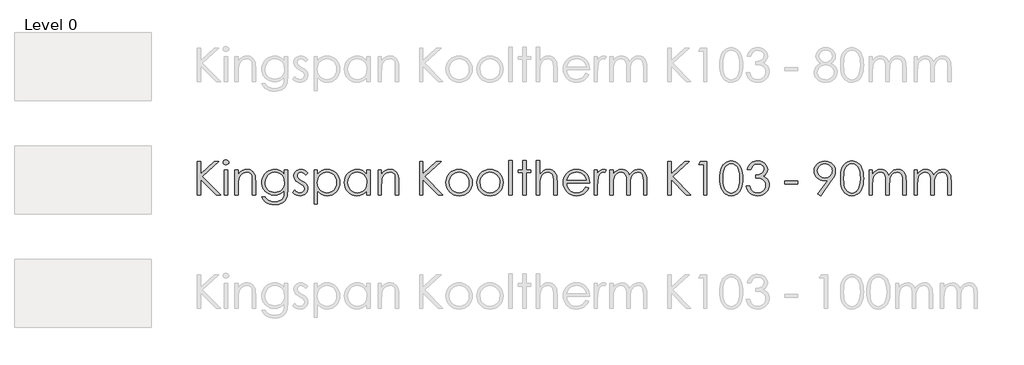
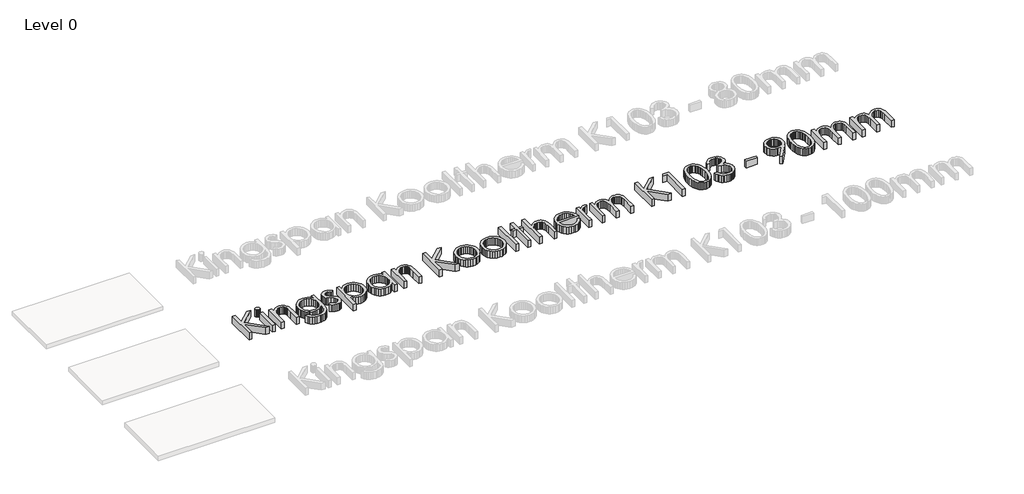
# One storey, part 6 of 13: 1 proxy.
"""IFC4 building model written with IfcOpenShell, lengths in millimetres."""

from ifc_helpers import new_model, si_unit, origin, origin_with_axes, place, context, project, spatial, polyline, outline, extrude, element, save

model = new_model("IFC4")

# Units and contexts
model_context = context("Model", 3, world=origin())
ifc_project = project(units=[si_unit("LENGTHUNIT", "METRE", prefix="MILLI")], contexts=[model_context])

# Site, building, storey
site = spatial("IfcSite", under=ifc_project)
building = spatial("IfcBuilding", under=site)
storey = spatial("IfcBuildingStorey", under=building, Name="Level 0", Elevation=0.0)

# Proxy
placement = place(None, origin())
element("IfcBuildingElementProxy", 1, Name="600mm KI_CenturyGothic", ObjectType="600mm KI_CenturyGothic", at=placement, inside=storey, context=model_context, shape_type="SweptSolid", body=[
    extrude(outline(polyline([(-3852.2663848, -8099.1034017), (-3792.944575, -8099.1034017), (-3792.944575, -8318.316027), (-3555.1938841, -8099.1034017), (-3471.6181051, -8099.1034017), (-3760.9664119, -8366.0515459), (-3441.9572002, -8692.3214999), (-3520.8984627, -8692.3214999), (-3792.944575, -8414.0960325), (-3792.944575, -8692.3214999), (-3852.2663848, -8692.3214999), (-3852.2663848, -8099.1034017)])), origin_with_axes(), (0.0, 0.0, 1.0), 150.0),
    extrude(outline(polyline([(-3348.1854852, -8069.4424967), (-3329.145347, -8072.7252792), (-3313.1176445, -8082.5736265), (-3302.226531, -8097.0178693), (-3298.5961598, -8114.088338), (-3302.226531, -8130.9270809), (-3313.1176445, -8145.2940817), (-3329.145347, -8155.142429), (-3348.1854852, -8158.4252115), (-3366.9938975, -8155.142429), (-3382.9443581, -8145.2940817), (-3393.8354717, -8130.9270809), (-3397.4658428, -8114.088338), (-3393.8354717, -8097.0178693), (-3382.9443581, -8082.5736265), (-3366.9938975, -8072.7252792), (-3348.1854852, -8069.4424967)])), origin_with_axes(), (0.0, 0.0, 1.0), 150.0),
    extrude(outline(polyline([(-3377.6919062, -8247.4079262), (-3318.3700964, -8247.4079262), (-3318.3700964, -8692.3214999), (-3377.6919062, -8692.3214999), (-3377.6919062, -8247.4079262)])), origin_with_axes(), (0.0, 0.0, 1.0), 150.0),
    extrude(outline(polyline([(-3189.8395084, -8247.4079262), (-3130.5176986, -8247.4079262), (-3130.5176986, -8326.5036726), (-3096.9946967, -8286.9944204), (-3060.0730495, -8259.303185), (-3019.7141359, -8242.9665147), (-2975.879335, -8237.5209579), (-2953.4357238, -8239.0995901), (-2932.2955704, -8243.8354865), (-2912.4588747, -8251.7286472), (-2893.9256368, -8262.7790723), (-2877.212412, -8276.5039994), (-2862.835756, -8292.4206667), (-2841.0921499, -8330.8292213), (-2833.6238199, -8355.2087086), (-2828.2892984, -8385.5551357), (-2824.0216812, -8464.1488095), (-2824.0216812, -8692.3214999), (-2883.343491, -8692.3214999), (-2883.343491, -8479.1337458), (-2883.343491, -8376.092998), (-2884.7290183, -8355.2956057), (-2889.8125035, -8337.2403023), (-2898.2849788, -8321.9270877), (-2910.1464442, -8309.355962), (-2924.7403432, -8299.5558909), (-2941.4101193, -8292.5558401), (-2980.977303, -8286.9557994), (-3005.3471351, -8289.1137461), (-3028.4038541, -8295.5875862), (-3050.1474602, -8306.3773197), (-3070.5779533, -8321.4829466), (-3088.6622225, -8339.7651482), (-3103.3671568, -8360.084606), (-3114.6927562, -8382.44132), (-3122.6390208, -8406.8352901), (-3128.5480292, -8453.9142525), (-3130.5176986, -8528.4141035), (-3130.5176986, -8692.3214999), (-3189.8395084, -8692.3214999), (-3189.8395084, -8247.4079262)])), origin_with_axes(), (0.0, 0.0, 1.0), 150.0),
    extrude(outline(polyline([(-2319.7862977, -8247.4079262), (-2260.4644879, -8247.4079262), (-2260.4644879, -8598.395301), (-2264.5196897, -8678.6496765), (-2269.588692, -8709.4499001), (-2276.6852953, -8734.0321474), (-2289.9371156, -8762.6454585), (-2307.2924139, -8787.7732271), (-2328.7511904, -8809.4154531), (-2354.3134448, -8827.5721366), (-2383.3226209, -8841.9343098), (-2415.122162, -8852.1930049), (-2449.7120682, -8858.348222), (-2487.0923395, -8860.3999611), (-2541.0458345, -8856.3833802), (-2589.206184, -8844.3336376), (-2630.260275, -8825.5059147), (-2662.8949946, -8801.1553932), (-2690.2000204, -8767.8061856), (-2715.2650299, -8721.9824048), (-2655.94322, -8721.9824048), (-2642.4355358, -8743.151524), (-2627.0933555, -8761.3951046), (-2609.9166791, -8776.7131468), (-2590.9055067, -8789.1056506), (-2569.7894914, -8798.6691682), (-2546.2982864, -8805.5002523), (-2492.1903075, -8810.9651195), (-2438.5071593, -8805.6354257), (-2415.083541, -8798.9733084), (-2393.93856, -8789.6463441), (-2359.6624492, -8765.6047903), (-2336.8567664, -8736.1176798), (-2329.3884364, -8717.4782342), (-2324.0539149, -8693.7697863), (-2319.7862977, -8631.1458835), (-2319.7862977, -8608.4367532), (-2354.757586, -8644.2190818), (-2396.6420279, -8670.6165148), (-2443.392712, -8686.8952536), (-2492.9627269, -8692.3214999), (-2522.4063889, -8690.4242447), (-2550.9521133, -8684.7324793), (-2578.5999001, -8675.2462036), (-2605.3497494, -8661.9654175), (-2630.1540674, -8645.4742634), (-2651.9652601, -8626.3568832), (-2670.7833277, -8604.6132772), (-2686.6082702, -8580.2434451), (-2699.1456025, -8553.9280817), (-2708.1008399, -8526.3478816), (-2713.4739824, -8497.5028447), (-2715.2650299, -8467.392971), (-2713.3967404, -8437.1044753), (-2707.7918722, -8407.8780563), (-2698.4504251, -8379.713714), (-2685.3723991, -8352.6114483), (-2668.9971079, -8327.4257483), (-2649.7638648, -8305.0111029), (-2627.67267, -8285.367512), (-2602.7235235, -8268.4949758), (-2575.9833294, -8254.943843), (-2548.5189922, -8245.2644624), (-2520.3305117, -8239.456834), (-2491.4178881, -8237.5209579), (-2444.5320306, -8242.4644421), (-2400.8903346, -8257.2948945), (-2359.6045177, -8283.8661218), (-2319.7862977, -8324.0319306), (-2319.7862977, -8247.4079262)]), holes=[polyline([(-2484.1571458, -8286.9557994), (-2529.0154023, -8292.9806707), (-2570.5908765, -8311.0552847), (-2606.2187212, -8339.7699758), (-2633.2340897, -8377.7150788), (-2650.2659375, -8421.9940208), (-2655.94322, -8469.7102292), (-2653.0080263, -8505.6229036), (-2644.2024452, -8538.2817613), (-2629.5264766, -8567.6868023), (-2608.9801206, -8593.8380266), (-2583.7606272, -8615.296803), (-2555.0652466, -8630.6245004), (-2522.8939786, -8639.8211189), (-2487.2468234, -8642.8866584), (-2451.3244937, -8639.845257), (-2419.1001219, -8630.7210528), (-2390.573708, -8615.5140459), (-2365.7452519, -8594.2242363), (-2345.6382095, -8567.9812872), (-2331.2760363, -8537.9148621), (-2322.6587323, -8504.024961), (-2319.7862977, -8466.3115838), (-2325.0773706, -8417.6105407), (-2340.9505892, -8374.3936754), (-2366.4983608, -8338.1672056), (-2400.8130926, -8310.4373492), (-2440.9982119, -8292.8261869), (-2484.1571458, -8286.9557994)])]), origin_with_axes(), (0.0, 0.0, 1.0), 150.0),
    extrude(outline(polyline([(-1904.5336289, -8298.6965743), (-1940.9918246, -8336.390641), (-1962.9575012, -8314.7628978), (-1984.6721416, -8299.3145098), (-2006.1357456, -8290.045477), (-2027.3483133, -8286.9557994), (-2052.181597, -8291.6289368), (-2073.2300256, -8305.6483489), (-2087.5970264, -8325.8857371), (-2092.3860267, -8349.212803), (-2088.4466878, -8370.7633042), (-2076.628671, -8391.2324183), (-2052.0657341, -8413.400855), (-2010.2006027, -8439.122421), (-1958.3326401, -8471.9888664), (-1939.8428507, -8487.8138088), (-1926.315856, -8503.2332311), (-1909.9791857, -8535.9065716), (-1904.5336289, -8572.4420092), (-1906.9474396, -8598.5884059), (-1914.1888714, -8622.6492701), (-1926.2579245, -8644.624602), (-1943.1545989, -8664.5144015), (-1963.6719892, -8681.0055557), (-1986.6031901, -8692.7849515), (-2011.9482016, -8699.852589), (-2039.7070237, -8702.2084682), (-2077.4397114, -8698.3270607), (-2113.3958344, -8686.6828383), (-2145.4512394, -8668.2027042), (-2171.4817731, -8643.8135617), (-2135.7959969, -8603.3387852), (-2114.0041146, -8624.9665283), (-2091.5749863, -8640.4149163), (-2068.5086121, -8649.6839491), (-2044.8049918, -8652.7736267), (-2013.637869, -8647.1349651), (-1987.4914724, -8630.2189802), (-1969.7644472, -8605.6560434), (-1963.8554388, -8577.0765256), (-1967.7561567, -8553.2860081), (-1979.4583106, -8532.2762005), (-2005.0253927, -8510.5712154), (-2050.2119275, -8483.7682622), (-2099.762632, -8453.1032121), (-2117.441381, -8437.9444814), (-2130.3890611, -8422.9016136), (-2146.3781427, -8390.7689666), (-2151.7078365, -8354.310771), (-2149.5305794, -8330.2643896), (-2142.9988078, -8308.3325063), (-2132.1125219, -8288.5151211), (-2116.8717217, -8270.812234), (-2098.309518, -8256.2473007), (-2077.4590218, -8245.8437769), (-2054.3202332, -8239.6016627), (-2028.8931521, -8237.5209579), (-1997.9481, -8241.3444339), (-1966.9064954, -8252.814862), (-1935.7683384, -8271.9322421), (-1904.5336289, -8298.6965743)])), origin_with_axes(), (0.0, 0.0, 1.0), 150.0),
    extrude(outline(polyline([(-1795.7769776, -8247.4079262), (-1736.4551678, -8247.4079262), (-1736.4551678, -8328.5119631), (-1700.9238754, -8288.2689124), (-1660.4490989, -8259.9211205), (-1614.9922173, -8243.1209986), (-1564.5146096, -8237.5209579), (-1520.0618732, -8241.7596094), (-1478.9305402, -8254.4755637), (-1441.1206107, -8275.668821), (-1406.6320845, -8305.3393811), (-1377.9077381, -8340.9768811), (-1357.3903478, -8380.070958), (-1345.0799137, -8422.6216116), (-1340.9764356, -8468.628842), (-1345.0412927, -8515.5291824), (-1357.235864, -8558.7508754), (-1377.5601494, -8598.293921), (-1406.014149, -8634.1583192), (-1440.2130179, -8663.9302594), (-1477.7719111, -8685.1959309), (-1518.6908288, -8697.9553339), (-1562.9697708, -8702.2084682), (-1612.6170277, -8696.743601), (-1658.0545988, -8680.3489992), (-1699.3211052, -8653.1019049), (-1736.4551678, -8615.07956), (-1736.4551678, -8850.5129928), (-1795.7769776, -8850.5129928), (-1795.7769776, -8247.4079262)]), holes=[polyline([(-1568.5311905, -8286.9557994), (-1602.5852307, -8290.2530647), (-1633.8392507, -8300.1448607), (-1662.2932503, -8316.6311872), (-1687.9472295, -8339.7120444), (-1709.1694525, -8367.6977647), (-1724.3281832, -8398.8986808), (-1733.4234216, -8433.3147926), (-1736.4551678, -8470.9461002), (-1731.048232, -8519.8016272), (-1714.8274246, -8563.4819442), (-1688.5265441, -8600.3263495), (-1652.8793888, -8628.6741414), (-1611.4390881, -8646.7487554), (-1567.7587711, -8652.7736267), (-1525.0632888, -8646.7101344), (-1485.0326535, -8628.5196576), (-1450.2544701, -8599.4187567), (-1423.3163435, -8560.6239924), (-1406.05277, -8515.9588407), (-1400.2982454, -8469.2467775), (-1405.9948385, -8422.3029886), (-1423.0846177, -8377.8695627), (-1449.8103289, -8339.5189395), (-1484.414718, -8310.8235589), (-1524.7157001, -8292.9227393), (-1568.5311905, -8286.9557994)])]), origin_with_axes(), (0.0, 0.0, 1.0), 150.0),
    extrude(outline(polyline([(-807.0801472, -8247.4079262), (-807.0801472, -8692.3214999), (-866.401957, -8692.3214999), (-866.401957, -8616.4699149), (-903.4780882, -8654.3184655), (-944.8797679, -8681.0441767), (-990.4525125, -8696.9173953), (-1040.0418379, -8702.2084682), (-1084.3159523, -8697.9553339), (-1125.2203871, -8685.1959309), (-1162.7551422, -8663.9302594), (-1196.9202178, -8634.1583192), (-1225.340424, -8598.293921), (-1245.6405713, -8558.7508754), (-1257.8206597, -8515.5291824), (-1261.8806892, -8468.628842), (-1257.7820388, -8422.6216116), (-1245.4860875, -8380.070958), (-1224.9928353, -8340.9768811), (-1196.3022822, -8305.3393811), (-1161.8475494, -8275.668821), (-1124.061758, -8254.4755637), (-1082.9449079, -8241.7596094), (-1038.4969991, -8237.5209579), (-987.7490446, -8243.1209986), (-942.0990581, -8259.9211205), (-921.2051134, -8272.6081091), (-901.6242816, -8288.2689124), (-866.401957, -8328.5119631), (-866.401957, -8247.4079262), (-807.0801472, -8247.4079262)]), holes=[polyline([(-1034.3259343, -8286.9557994), (-1078.1414247, -8292.9227393), (-1118.4424068, -8310.8235589), (-1153.0467959, -8339.5189395), (-1179.7725071, -8377.8695627), (-1196.8622863, -8422.3029886), (-1202.5588794, -8469.2467775), (-1196.8043548, -8515.9588407), (-1179.5407813, -8560.6239924), (-1152.6026548, -8599.4187567), (-1117.8244713, -8628.5196576), (-1077.6779731, -8646.7101344), (-1034.6349021, -8652.7736267), (-991.0125165, -8646.7487554), (-949.7460102, -8628.6741414), (-914.2726493, -8600.3263495), (-888.0297002, -8563.4819442), (-871.8088928, -8519.8016272), (-866.401957, -8470.9461002), (-869.4337032, -8433.3147926), (-878.5289416, -8398.8986808), (-893.6876723, -8367.6977647), (-914.9098953, -8339.7120444), (-940.5638746, -8316.6311872), (-969.0178742, -8300.1448607), (-1000.2718941, -8290.2530647), (-1034.3259343, -8286.9557994)])]), origin_with_axes(), (0.0, 0.0, 1.0), 150.0),
    extrude(outline(polyline([(-668.662591, -8247.4079262), (-609.3407811, -8247.4079262), (-609.3407811, -8326.5036726), (-575.8177792, -8286.9944204), (-538.896132, -8259.303185), (-498.5372184, -8242.9665147), (-454.7024175, -8237.5209579), (-432.2588064, -8239.0995901), (-411.1186529, -8243.8354865), (-391.2819572, -8251.7286472), (-372.7487193, -8262.7790723), (-356.0354946, -8276.5039994), (-341.6588385, -8292.4206667), (-319.9152324, -8330.8292213), (-312.4469024, -8355.2087086), (-307.1123809, -8385.5551357), (-302.8447637, -8464.1488095), (-302.8447637, -8692.3214999), (-362.1665735, -8692.3214999), (-362.1665735, -8479.1337458), (-362.1665735, -8376.092998), (-363.5521008, -8355.2956057), (-368.635586, -8337.2403023), (-377.1080613, -8321.9270877), (-388.9695267, -8309.355962), (-403.5634257, -8299.5558909), (-420.2332018, -8292.5558401), (-459.8003855, -8286.9557994), (-484.1702176, -8289.1137461), (-507.2269366, -8295.5875862), (-528.9705427, -8306.3773197), (-549.4010358, -8321.4829466), (-567.485305, -8339.7651482), (-582.1902393, -8360.084606), (-593.5158387, -8382.44132), (-601.4621033, -8406.8352901), (-607.3711117, -8453.9142525), (-609.3407811, -8528.4141035), (-609.3407811, -8692.3214999), (-668.662591, -8692.3214999), (-668.662591, -8247.4079262)])), origin_with_axes(), (0.0, 0.0, 1.0), 150.0),
    extrude(outline(polyline([(62.9730635, -8099.1034017), (122.2948734, -8099.1034017), (122.2948734, -8318.316027), (360.0455643, -8099.1034017), (443.6213432, -8099.1034017), (154.2730365, -8366.0515459), (473.2822481, -8692.3214999), (394.3409856, -8692.3214999), (122.2948734, -8414.0960325), (122.2948734, -8692.3214999), (62.9730635, -8692.3214999), (62.9730635, -8099.1034017)])), origin_with_axes(), (0.0, 0.0, 1.0), 150.0),
    extrude(outline(polyline([(760.1588128, -8237.5209579), (809.4681362, -8242.1458191), (854.3553585, -8256.0204025), (894.8204798, -8279.1447083), (930.8635, -8311.5187363), (957.7630055, -8346.7507161), (976.9769381, -8385.091684), (988.5052976, -8426.54164), (992.3480841, -8471.1005841), (988.283227, -8515.9153921), (976.0886558, -8557.8239721), (955.7643703, -8596.8263241), (927.3103707, -8632.9224481), (892.4742558, -8663.2350819), (853.0036246, -8684.8869632), (808.8984769, -8697.8780919), (760.1588128, -8702.2084682), (711.2839754, -8697.8780919), (667.0822753, -8684.8869632), (627.5537126, -8663.2350819), (592.6982872, -8632.9224481), (564.2442876, -8596.8263241), (543.9200022, -8557.8239721), (531.7254309, -8515.9153921), (527.6605738, -8471.1005841), (531.5033603, -8426.7347449), (543.0317198, -8385.4006518), (562.2456524, -8347.0983049), (589.145158, -8311.8277041), (625.2074886, -8279.3185026), (665.7305413, -8256.0976445), (710.7143161, -8242.1651295), (760.1588128, -8237.5209579)]), holes=[polyline([(760.004329, -8286.9557994), (725.7282181, -8290.3303067), (693.9624704, -8300.4538284), (664.7070856, -8317.3263647), (637.962064, -8340.9479154), (615.6584538, -8369.3584664), (599.7273037, -8400.5980035), (590.1686137, -8434.6665266), (586.9823836, -8471.5640357), (592.7948396, -8519.2995546), (610.2322075, -8563.6364281), (637.5758543, -8601.4270471), (673.1071466, -8629.5238028), (714.6439998, -8646.9611707), (760.004329, -8652.7736267), (805.3646581, -8646.9611707), (846.9015113, -8629.5238028), (882.4328037, -8601.4270471), (909.7764504, -8563.6364281), (927.2138183, -8519.2995546), (933.0262743, -8471.5640357), (929.8255614, -8434.6665266), (920.2234227, -8400.5980035), (904.2198583, -8369.3584664), (881.8148681, -8340.9479154), (854.9974321, -8317.3263647), (825.7565303, -8300.4538284), (794.0921625, -8290.3303067), (760.004329, -8286.9557994)])]), origin_with_axes(), (0.0, 0.0, 1.0), 150.0),
    extrude(outline(polyline([(1303.9420695, -8237.5209579), (1353.2513929, -8242.1458191), (1398.1386152, -8256.0204025), (1438.6037365, -8279.1447083), (1474.6467567, -8311.5187363), (1501.5462622, -8346.7507161), (1520.7601948, -8385.091684), (1532.2885543, -8426.54164), (1536.1313408, -8471.1005841), (1532.0664837, -8515.9153921), (1519.8719125, -8557.8239721), (1499.547627, -8596.8263241), (1471.0936274, -8632.9224481), (1436.2575126, -8663.2350819), (1396.7868813, -8684.8869632), (1352.6817336, -8697.8780919), (1303.9420695, -8702.2084682), (1255.0672321, -8697.8780919), (1210.865532, -8684.8869632), (1171.3369693, -8663.2350819), (1136.4815439, -8632.9224481), (1108.0275443, -8596.8263241), (1087.7032589, -8557.8239721), (1075.5086876, -8515.9153921), (1071.4438305, -8471.1005841), (1075.286617, -8426.7347449), (1086.8149766, -8385.4006518), (1106.0289091, -8347.0983049), (1132.9284147, -8311.8277041), (1168.9907453, -8279.3185026), (1209.5137981, -8256.0976445), (1254.4975728, -8242.1651295), (1303.9420695, -8237.5209579)]), holes=[polyline([(1303.7875857, -8286.9557994), (1269.5114748, -8290.3303067), (1237.7457271, -8300.4538284), (1208.4903423, -8317.3263647), (1181.7453207, -8340.9479154), (1159.4417105, -8369.3584664), (1143.5105604, -8400.5980035), (1133.9518704, -8434.6665266), (1130.7656404, -8471.5640357), (1136.5780963, -8519.2995546), (1154.0154643, -8563.6364281), (1181.359111, -8601.4270471), (1216.8904033, -8629.5238028), (1258.4272565, -8646.9611707), (1303.7875857, -8652.7736267), (1349.1479149, -8646.9611707), (1390.684768, -8629.5238028), (1426.2160604, -8601.4270471), (1453.5597071, -8563.6364281), (1470.997075, -8519.2995546), (1476.809531, -8471.5640357), (1473.6088181, -8434.6665266), (1464.0066795, -8400.5980035), (1448.003115, -8369.3584664), (1425.5981249, -8340.9479154), (1398.7806889, -8317.3263647), (1369.539787, -8300.4538284), (1337.8754193, -8290.3303067), (1303.7875857, -8286.9557994)])]), origin_with_axes(), (0.0, 0.0, 1.0), 150.0),
    extrude(outline(polyline([(1635.0010238, -8079.3294651), (1694.3228337, -8079.3294651), (1694.3228337, -8692.3214999), (1635.0010238, -8692.3214999), (1635.0010238, -8079.3294651)])), origin_with_axes(), (0.0, 0.0, 1.0), 150.0),
    extrude(outline(polyline([(1882.1752314, -8079.3294651), (1941.4970413, -8079.3294651), (1941.4970413, -8247.4079262), (2020.5927877, -8247.4079262), (2020.5927877, -8296.8427677), (1941.4970413, -8296.8427677), (1941.4970413, -8692.3214999), (1882.1752314, -8692.3214999), (1882.1752314, -8296.8427677), (1803.079485, -8296.8427677), (1803.079485, -8247.4079262), (1882.1752314, -8247.4079262), (1882.1752314, -8079.3294651)])), origin_with_axes(), (0.0, 0.0, 1.0), 150.0),
    extrude(outline(polyline([(2119.4624707, -8079.3294651), (2178.7842806, -8079.3294651), (2178.7842806, -8328.0485114), (2212.5583188, -8288.3461544), (2249.6151394, -8260.0756044), (2289.9161216, -8243.1596195), (2333.4226442, -8237.5209579), (2355.8662553, -8239.0995901), (2377.0064088, -8243.8354865), (2396.8431044, -8251.7286472), (2415.3763424, -8262.7790723), (2432.0895671, -8276.4895166), (2446.4662232, -8292.3627352), (2468.2098293, -8330.5974955), (2475.6781593, -8354.9045684), (2481.0126808, -8385.2654784), (2485.280298, -8464.1488095), (2485.280298, -8692.3214999), (2425.9584882, -8692.3214999), (2425.9584882, -8479.1337458), (2424.5681332, -8414.752589), (2420.3970685, -8376.092998), (2406.879729, -8337.2403023), (2397.1665551, -8321.9270877), (2385.4837117, -8309.355962), (2371.840854, -8299.5558909), (2356.2476374, -8292.5558401), (2319.2101273, -8286.9557994), (2296.3416854, -8289.1137461), (2274.6994594, -8295.5875862), (2254.2834492, -8306.3773197), (2235.0936547, -8321.4829466), (2218.1052556, -8339.7651482), (2204.2934312, -8360.084606), (2193.6581816, -8382.44132), (2186.1995068, -8406.8352901), (2180.6380871, -8453.6825267), (2178.7842806, -8528.4141035), (2178.7842806, -8692.3214999), (2119.4624707, -8692.3214999), (2119.4624707, -8079.3294651)])), origin_with_axes(), (0.0, 0.0, 1.0), 150.0),
    extrude(outline(polyline([(2991.0605203, -8544.0169753), (3038.950523, -8569.1978477), (3013.3255094, -8611.0822896), (2984.0315038, -8644.0452875), (2950.952643, -8669.1296074), (2913.9730643, -8687.3780157), (2872.4941426, -8698.5008551), (2825.9172528, -8702.2084682), (2774.4258447, -8697.7767119), (2728.8627554, -8684.481443), (2689.227985, -8662.3226615), (2655.5215335, -8631.3003674), (2628.6220279, -8594.6973431), (2609.4080954, -8555.7963712), (2597.8797358, -8514.5974515), (2594.0369493, -8471.1005841), (2597.3197318, -8430.2202874), (2607.1680791, -8391.618628), (2623.5819913, -8355.2956057), (2646.5614684, -8321.2512207), (2682.7493173, -8284.6192308), (2724.5758277, -8258.4535236), (2772.0409998, -8242.7540993), (2825.1448334, -8237.5209579), (2879.7935059, -8242.8892727), (2928.6490329, -8258.9942172), (2971.7114143, -8285.8357913), (3008.9806503, -8323.4139951), (3030.4539096, -8355.585263), (3045.9022976, -8391.541386), (3055.3258143, -8431.2823641), (3058.7244596, -8474.8081972), (2653.3587591, -8474.8081972), (2657.095338, -8512.0629503), (2666.6057518, -8545.8128504), (2681.8900007, -8576.0578975), (2702.9480845, -8602.7980916), (2728.3124066, -8624.6623882), (2756.5153699, -8640.2797429), (2787.5569744, -8649.6501557), (2821.4372203, -8652.7736267), (2854.9602222, -8649.761191), (2887.5563208, -8640.7238841), (2917.2944677, -8626.6851615), (2942.2436143, -8608.668479), (2965.725164, -8582.5027719), (2991.0605203, -8544.0169753)]), holes=[polyline([(2999.4026498, -8425.3733557), (2984.9777175, -8382.8516678), (2965.1844704, -8349.8307385), (2939.0766947, -8324.3022774), (2905.7081767, -8304.257994), (2867.7630738, -8291.2813481), (2827.9255433, -8286.9557994), (2795.503239, -8289.6689226), (2765.4368139, -8297.808292), (2737.726268, -8311.3739077), (2712.3716012, -8330.3657696), (2695.8321708, -8348.179692), (2681.4362043, -8369.9522638), (2669.1837016, -8395.683485), (2659.0746627, -8425.3733557), (2999.4026498, -8425.3733557)])]), origin_with_axes(), (0.0, 0.0, 1.0), 150.0),
    extrude(outline(polyline([(3137.820206, -8247.4079262), (3197.1420159, -8247.4079262), (3197.1420159, -8311.8277041), (3222.6897875, -8278.7874643), (3249.589293, -8255.6728138), (3277.7632906, -8242.0589219), (3307.1345382, -8237.5209579), (3330.4616041, -8241.305813), (3355.3335087, -8252.6603781), (3325.8270877, -8294.6799934), (3297.2475699, -8286.9557994), (3270.8308265, -8292.9034288), (3245.3409863, -8310.7463169), (3223.2884125, -8341.1023993), (3207.183468, -8384.5896114), (3199.6523789, -8442.7141712), (3197.1420159, -8540.1548783), (3197.1420159, -8692.3214999), (3137.820206, -8692.3214999), (3137.820206, -8247.4079262)])), origin_with_axes(), (0.0, 0.0, 1.0), 150.0),
    extrude(outline(polyline([(3414.6553185, -8247.4079262), (3473.9771284, -8247.4079262), (3473.9771284, -8323.5684789), (3503.5607913, -8287.0716623), (3533.9168737, -8261.9294109), (3577.3268439, -8243.6230712), (3622.8995884, -8237.5209579), (3653.7384329, -8240.668567), (3682.9165757, -8250.1113941), (3708.6767627, -8264.7873627), (3729.2617397, -8283.634396), (3746.0425511, -8309.0663047), (3760.3902414, -8343.4968994), (3775.16759, -8319.0981017), (3791.6925376, -8297.808292), (3809.965084, -8279.6274704), (3829.9852293, -8264.5556369), (3851.2798666, -8252.7279648), (3873.375889, -8244.2796277), (3896.2732965, -8239.2106253), (3919.9720892, -8237.5209579), (3962.3006723, -8243.3334139), (3981.4952943, -8250.5989839), (3999.3768034, -8260.7707818), (4015.4914031, -8273.53984), (4029.385297, -8288.5971907), (4050.5109676, -8325.5767694), (4057.8103309, -8348.9521114), (4063.0241619, -8377.5219739), (4067.1952266, -8450.2452603), (4067.1952266, -8692.3214999), (4007.8734168, -8692.3214999), (4007.8734168, -8446.6921311), (4005.4209852, -8385.5744462), (3998.0636904, -8347.1272706), (3984.7587663, -8322.6608861), (3964.4634466, -8303.4855746), (3938.3942919, -8291.0882432), (3907.7678627, -8286.9557994), (3888.1194443, -8288.5054659), (3869.3399976, -8293.1544651), (3834.3880198, -8311.7504621), (3805.6540182, -8340.6968791), (3785.8800816, -8377.9468046), (3779.1889985, -8402.1042213), (3774.4096535, -8433.1747916), (3770.5861775, -8516.0553931), (3770.5861775, -8692.3214999), (3711.2643677, -8692.3214999), (3711.2643677, -8461.9860352), (3708.850557, -8393.530366), (3701.6091252, -8351.2983353), (3688.3621325, -8325.0553863), (3667.9316394, -8304.5669617), (3641.6114484, -8291.35859), (3610.6953619, -8286.9557994), (3573.7544042, -8292.9999812), (3539.2465676, -8311.1325266), (3510.2808401, -8339.499629), (3489.9662099, -8376.2474819), (3477.9743988, -8428.0768236), (3473.9771284, -8501.6883923), (3473.9771284, -8692.3214999), (3414.6553185, -8692.3214999), (3414.6553185, -8247.4079262)])), origin_with_axes(), (0.0, 0.0, 1.0), 150.0),
    extrude(outline(polyline([(4433.0130538, -8099.1034017), (4492.3348637, -8099.1034017), (4492.3348637, -8318.316027), (4730.0855546, -8099.1034017), (4813.6613335, -8099.1034017), (4524.3130268, -8366.0515459), (4843.3222385, -8692.3214999), (4764.3809759, -8692.3214999), (4492.3348637, -8414.0960325), (4492.3348637, -8692.3214999), (4433.0130538, -8692.3214999), (4433.0130538, -8099.1034017)])), origin_with_axes(), (0.0, 0.0, 1.0), 150.0),
    extrude(outline(polyline([(5010.6282802, -8099.1034017), (5125.1008351, -8099.1034017), (5125.1008351, -8692.3214999), (5065.7790253, -8692.3214999), (5065.7790253, -8148.5382432), (4976.7963106, -8148.5382432), (5010.6282802, -8099.1034017)])), origin_with_axes(), (0.0, 0.0, 1.0), 150.0),
    extrude(outline(polyline([(5352.5011061, -8395.8669347), (5354.0797383, -8341.4355052), (5358.8156347, -8293.5406748), (5366.7087954, -8252.1824436), (5377.7592204, -8217.3608116), (5391.6869077, -8187.7192172), (5408.2118552, -8161.9010988), (5427.334063, -8139.9064564), (5449.053531, -8121.73529), (5472.747496, -8107.5082902), (5497.793195, -8097.3461475), (5524.190628, -8091.2488619), (5551.9397949, -8089.2164334), (5580.1427582, -8091.2633448), (5606.974677, -8097.404079), (5632.4355515, -8107.638636), (5656.5253815, -8121.9670159), (5678.7083011, -8140.3843909), (5698.4484443, -8162.8859335), (5715.7458112, -8189.4716437), (5730.6004018, -8220.1415214), (5742.5294539, -8255.6583309), (5751.0502054, -8296.7848363), (5756.1626563, -8343.5210375), (5757.8668066, -8395.8669347), (5756.1867944, -8448.0535203), (5751.1467578, -8494.6207548), (5742.7466968, -8535.5686382), (5730.9866115, -8570.8971704), (5716.2768496, -8601.4222195), (5699.0277589, -8627.9596535), (5679.2393394, -8650.5094723), (5656.9115912, -8669.071676), (5632.6527944, -8683.5690226), (5607.0712295, -8693.9242701), (5580.1668963, -8700.1374187), (5551.9397949, -8702.2084682), (5524.2147661, -8700.2001778), (5497.8897474, -8694.1753064), (5472.964739, -8684.1338543), (5449.4397407, -8670.0758212), (5427.8651013, -8652.0398282), (5408.7911698, -8630.0644964), (5392.2179461, -8604.1498255), (5378.1454301, -8574.2958158), (5366.9260384, -8539.2762513), (5358.9121871, -8497.8649163), (5354.1038764, -8450.0618107), (5352.5011061, -8395.8669347)]), holes=[polyline([(5411.8229159, -8395.7124508), (5416.206396, -8484.038609), (5421.6857461, -8519.0195525), (5429.3568363, -8547.8790723), (5439.1713903, -8572.1185586), (5451.0811319, -8593.2394015), (5465.0860611, -8611.2416011), (5481.1861779, -8626.1251574), (5516.4857445, -8646.1115094), (5534.8886366, -8651.1080973), (5553.7936014, -8652.7736267), (5572.7854634, -8651.1418907), (5591.1400794, -8646.2466828), (5625.9375733, -8626.665851), (5641.694929, -8611.9898824), (5655.4439943, -8594.0697524), (5667.1847692, -8572.9054608), (5676.9172536, -8548.4970078), (5686.3793912, -8515.1381451), (5693.138061, -8478.5544313), (5698.5449967, -8395.7124508), (5693.7173755, -8314.1063413), (5687.682849, -8279.4150551), (5679.2345118, -8248.7982811), (5668.652366, -8222.135329), (5656.2164137, -8199.3055082), (5641.9266548, -8180.3088186), (5625.7830894, -8165.1452603), (5590.7152487, -8145.2747712), (5572.4861509, -8140.307149), (5553.7936014, -8138.6512749), (5534.7776014, -8140.307149), (5516.3505711, -8145.2747712), (5481.2634199, -8165.1452603), (5465.3177869, -8179.9564022), (5451.3900996, -8197.8958428), (5439.480358, -8218.9635819), (5429.5885621, -8243.1596195), (5421.8160919, -8272.0143117), (5416.2643275, -8307.0580143), (5411.8229159, -8395.7124508)])]), origin_with_axes(), (0.0, 0.0, 1.0), 150.0),
    extrude(outline(polyline([(5896.2843628, -8237.5209579), (5836.962553, -8237.5209579), (5847.4867673, -8203.8917483), (5861.9116996, -8174.3756721), (5880.2373498, -8148.9727291), (5902.463718, -8127.6829194), (5927.7314876, -8110.8538318), (5955.181342, -8098.8330549), (5984.8132812, -8091.6205887), (6016.6273051, -8089.2164334), (6062.9145376, -8094.3723328), (6105.9962296, -8109.8400313), (6142.7827034, -8134.0553795), (6170.1842816, -8165.454228), (6187.2161294, -8201.2365567), (6192.8934119, -8238.6023451), (6188.2106193, -8274.037085), (6174.1622415, -8305.5711069), (6150.7482785, -8333.2044109), (6117.9687303, -8356.936997), (6155.3538292, -8378.1012885), (6185.3237018, -8407.2987418), (6201.6120959, -8431.398227), (6213.2466631, -8456.8880672), (6220.2274034, -8483.7682622), (6222.5543169, -8512.0388122), (6220.8549942, -8536.7031292), (6215.7570261, -8560.7977868), (6207.2604128, -8584.3227851), (6195.365154, -8607.2781241), (6180.5347016, -8628.6644862), (6163.232507, -8647.4825538), (6143.4585704, -8663.7323269), (6121.2128917, -8677.4138055), (6097.0361646, -8688.2614704), (6071.4690825, -8696.0098025), (6044.5116454, -8700.6588018), (6016.1638535, -8702.2084682), (5978.6290984, -8699.5387936), (5944.3481599, -8691.52977), (5913.3210382, -8678.1813973), (5885.5477332, -8659.4936754), (5861.6654909, -8635.6403989), (5842.3115573, -8606.795362), (5827.4859325, -8572.9585647), (5817.1886164, -8534.130007), (5876.5104262, -8534.130007), (5895.5505644, -8584.8779615), (5907.6485832, -8604.169136), (5921.4652352, -8619.4051087), (5941.5288291, -8634.0038353), (5964.180028, -8644.4314972), (5989.4188318, -8650.6880943), (6017.2452407, -8652.7736267), (6048.6054683, -8650.2777465), (6076.7215344, -8642.7901059), (6101.593439, -8630.310705), (6123.2211822, -8612.8395438), (6140.7261368, -8592.0180133), (6153.2296758, -8569.487505), (6160.7317992, -8545.2480188), (6163.232507, -8519.2995546), (6158.2310914, -8484.7337865), (6143.2268446, -8452.4080346), (6119.8032263, -8425.0450774), (6089.5436964, -8405.3676933), (6046.6357988, -8392.5648417), (5985.2670776, -8385.8254825), (5985.2670776, -8336.390641), (6027.1515195, -8332.7409593), (6065.0580014, -8321.7919143), (6096.0706403, -8305.2042077), (6117.2735528, -8284.6385412), (6129.4970898, -8261.0797496), (6133.5716021, -8235.5126675), (6131.5102078, -8216.4821845), (6125.326025, -8198.7841251), (6115.0190537, -8182.4184891), (6100.5892938, -8167.3852765), (6083.0119248, -8154.8141508), (6063.2621263, -8145.8347753), (6041.3398983, -8140.44715), (6017.2452407, -8138.6512749), (5979.2228958, -8144.270626), (5946.7233496, -8161.1286794), (5932.4191078, -8174.3322235), (5919.2445295, -8191.4654513), (5896.2843628, -8237.5209579)])), origin_with_axes(), (0.0, 0.0, 1.0), 150.0),
    extrude(outline(polyline([(6499.3894294, -8445.1472923), (6726.7897004, -8445.1472923), (6726.7897004, -8494.5821338), (6499.3894294, -8494.5821338), (6499.3894294, -8445.1472923)])), origin_with_axes(), (0.0, 0.0, 1.0), 150.0),
    extrude(outline(polyline([(7132.1554008, -8702.2084682), (7081.1757205, -8674.5558537), (7254.5066336, -8429.3899366), (7192.24963, -8435.260324), (7156.3514385, -8432.1899569), (7123.2725777, -8422.9788556), (7093.0130478, -8407.62702), (7065.5728486, -8386.1344502), (7042.7961316, -8360.1521927), (7026.527048, -8331.3312939), (7016.7655979, -8299.6717538), (7013.5117812, -8265.1735724), (7015.0421371, -8241.1368462), (7019.6332049, -8218.3070254), (7027.2849846, -8196.6841098), (7037.9974761, -8176.2680996), (7051.5196432, -8157.450032), (7067.6004496, -8140.6209443), (7107.4379801, -8112.9297089), (7154.0148698, -8095.1447522), (7203.835921, -8089.2164334), (7252.5562746, -8095.0481998), (7297.3759102, -8112.5434992), (7317.6615747, -8125.3753165), (7335.6492914, -8140.5437024), (7351.3390604, -8158.048657), (7364.7308818, -8177.8901803), (7383.095153, -8221.2615296), (7389.2165767, -8267.3363467), (7385.3931007, -8304.180752), (7373.9226726, -8342.72448), (7352.6038972, -8386.1344502), (7319.2353792, -8437.5775822), (7132.1554008, -8702.2084682)]), holes=[polyline([(7204.7628243, -8385.8254825), (7231.0154286, -8383.5613281), (7254.7769804, -8376.768865), (7276.0474796, -8365.4480932), (7294.8269262, -8349.5990127), (7310.1691065, -8330.5540469), (7321.1278067, -8309.6456193), (7327.7030268, -8286.8737299), (7329.8947669, -8262.2383787), (7327.5437153, -8237.6030275), (7320.4905607, -8214.8311381), (7308.735303, -8193.9227105), (7292.2779422, -8174.8777447), (7272.4798675, -8159.0286641), (7250.702468, -8147.7078923), (7226.9457439, -8140.9154292), (7201.2096951, -8138.6512749), (7175.6088196, -8140.9154292), (7151.9486479, -8147.7078923), (7130.2291799, -8159.0286641), (7110.4504157, -8174.8777447), (7093.9930549, -8193.9227105), (7082.2377972, -8214.8311381), (7075.1846425, -8237.6030275), (7072.833591, -8262.2383787), (7075.2474016, -8286.8737299), (7082.4888335, -8309.6456193), (7094.5578866, -8330.5540469), (7111.4545609, -8349.5990127), (7131.7691911, -8365.4480932), (7154.0921117, -8376.768865), (7178.4233228, -8383.5613281), (7204.7628243, -8385.8254825)])]), origin_with_axes(), (0.0, 0.0, 1.0), 150.0),
    extrude(outline(polyline([(7478.1992914, -8395.8669347), (7479.7779236, -8341.4355052), (7484.51382, -8293.5406748), (7492.4069808, -8252.1824436), (7503.4574058, -8217.3608116), (7517.3850931, -8187.7192172), (7533.9100406, -8161.9010988), (7553.0322483, -8139.9064564), (7574.7517163, -8121.73529), (7598.4456813, -8107.5082902), (7623.4913804, -8097.3461475), (7649.8888133, -8091.2488619), (7677.6379802, -8089.2164334), (7705.8409435, -8091.2633448), (7732.6728624, -8097.404079), (7758.1337368, -8107.638636), (7782.2235668, -8121.9670159), (7804.4064864, -8140.3843909), (7824.1466297, -8162.8859335), (7841.4439966, -8189.4716437), (7856.2985871, -8220.1415214), (7868.2276392, -8255.6583309), (7876.7483907, -8296.7848363), (7881.8608416, -8343.5210375), (7883.5649919, -8395.8669347), (7881.8849797, -8448.0535203), (7876.8449431, -8494.6207548), (7868.4448822, -8535.5686382), (7856.6847968, -8570.8971704), (7841.9750349, -8601.4222195), (7824.7259442, -8627.9596535), (7804.9375247, -8650.5094723), (7782.6097765, -8669.071676), (7758.3509797, -8683.5690226), (7732.7694148, -8693.9242701), (7705.8650816, -8700.1374187), (7677.6379802, -8702.2084682), (7649.9129514, -8700.2001778), (7623.5879328, -8694.1753064), (7598.6629243, -8684.1338543), (7575.137926, -8670.0758212), (7553.5632867, -8652.0398282), (7534.4893551, -8630.0644964), (7517.9161314, -8604.1498255), (7503.8436155, -8574.2958158), (7492.6242237, -8539.2762513), (7484.6103725, -8497.8649163), (7479.8020617, -8450.0618107), (7478.1992914, -8395.8669347)]), holes=[polyline([(7537.5211013, -8395.7124508), (7541.9045814, -8484.038609), (7547.3839315, -8519.0195525), (7555.0550216, -8547.8790723), (7564.8695756, -8572.1185586), (7576.7793172, -8593.2394015), (7590.7842464, -8611.2416011), (7606.8843633, -8626.1251574), (7642.1839298, -8646.1115094), (7660.586822, -8651.1080973), (7679.4917868, -8652.7736267), (7698.4836487, -8651.1418907), (7716.8382647, -8646.2466828), (7751.6357586, -8626.665851), (7767.3931143, -8611.9898824), (7781.1421796, -8594.0697524), (7792.8829545, -8572.9054608), (7802.6154389, -8548.4970078), (7812.0775766, -8515.1381451), (7818.8362463, -8478.5544313), (7824.2431821, -8395.7124508), (7819.4155608, -8314.1063413), (7813.3810343, -8279.4150551), (7804.9326971, -8248.7982811), (7794.3505514, -8222.135329), (7781.914599, -8199.3055082), (7767.6248402, -8180.3088186), (7751.4812747, -8165.1452603), (7716.413434, -8145.2747712), (7698.1843362, -8140.307149), (7679.4917868, -8138.6512749), (7660.4757867, -8140.307149), (7642.0487564, -8145.2747712), (7606.9616052, -8165.1452603), (7591.0159723, -8179.9564022), (7577.088285, -8197.8958428), (7565.1785434, -8218.9635819), (7555.2867474, -8243.1596195), (7547.5142772, -8272.0143117), (7541.9625128, -8307.0580143), (7537.5211013, -8395.7124508)])]), origin_with_axes(), (0.0, 0.0, 1.0), 150.0),
    extrude(outline(polyline([(7982.4346749, -8247.4079262), (8041.7564848, -8247.4079262), (8041.7564848, -8323.5684789), (8071.3401477, -8287.0716623), (8101.6962301, -8261.9294109), (8145.1062003, -8243.6230712), (8190.6789448, -8237.5209579), (8221.5177893, -8240.668567), (8250.6959321, -8250.1113941), (8276.4561191, -8264.7873627), (8297.0410961, -8283.634396), (8313.8219075, -8309.0663047), (8328.1695978, -8343.4968994), (8342.9469464, -8319.0981017), (8359.471894, -8297.808292), (8377.7444404, -8279.6274704), (8397.7645856, -8264.5556369), (8419.0592229, -8252.7279648), (8441.1552454, -8244.2796277), (8464.0526529, -8239.2106253), (8487.7514456, -8237.5209579), (8530.0800287, -8243.3334139), (8549.2746507, -8250.5989839), (8567.1561598, -8260.7707818), (8583.2707595, -8273.53984), (8597.1646534, -8288.5971907), (8618.290324, -8325.5767694), (8625.5896873, -8348.9521114), (8630.8035182, -8377.5219739), (8634.974583, -8450.2452603), (8634.974583, -8692.3214999), (8575.6527732, -8692.3214999), (8575.6527732, -8446.6921311), (8573.2003416, -8385.5744462), (8565.8430468, -8347.1272706), (8552.5381227, -8322.6608861), (8532.242803, -8303.4855746), (8506.1736483, -8291.0882432), (8475.5472191, -8286.9557994), (8455.8988006, -8288.5054659), (8437.119354, -8293.1544651), (8402.1673762, -8311.7504621), (8373.4333746, -8340.6968791), (8353.659438, -8377.9468046), (8346.9683549, -8402.1042213), (8342.1890099, -8433.1747916), (8338.3655339, -8516.0553931), (8338.3655339, -8692.3214999), (8279.0437241, -8692.3214999), (8279.0437241, -8461.9860352), (8276.6299134, -8393.530366), (8269.3884816, -8351.2983353), (8256.1414889, -8325.0553863), (8235.7109958, -8304.5669617), (8209.3908048, -8291.35859), (8178.4747183, -8286.9557994), (8141.5337606, -8292.9999812), (8107.025924, -8311.1325266), (8078.0601965, -8339.499629), (8057.7455663, -8376.2474819), (8045.7537552, -8428.0768236), (8041.7564848, -8501.6883923), (8041.7564848, -8692.3214999), (7982.4346749, -8692.3214999), (7982.4346749, -8247.4079262)])), origin_with_axes(), (0.0, 0.0, 1.0), 150.0),
    extrude(outline(polyline([(8773.3921393, -8247.4079262), (8832.7139491, -8247.4079262), (8832.7139491, -8323.5684789), (8862.2976121, -8287.0716623), (8892.6536944, -8261.9294109), (8936.0636646, -8243.6230712), (8981.6364092, -8237.5209579), (9012.4752537, -8240.668567), (9041.6533964, -8250.1113941), (9067.4135834, -8264.7873627), (9087.9985604, -8283.634396), (9104.7793718, -8309.0663047), (9119.1270621, -8343.4968994), (9133.9044108, -8319.0981017), (9150.4293583, -8297.808292), (9168.7019047, -8279.6274704), (9188.72205, -8264.5556369), (9210.0166873, -8252.7279648), (9232.1127097, -8244.2796277), (9255.0101172, -8239.2106253), (9278.7089099, -8237.5209579), (9321.037493, -8243.3334139), (9340.232115, -8250.5989839), (9358.1136241, -8260.7707818), (9374.2282238, -8273.53984), (9388.1221177, -8288.5971907), (9409.2477883, -8325.5767694), (9416.5471516, -8348.9521114), (9421.7609826, -8377.5219739), (9425.9320473, -8450.2452603), (9425.9320473, -8692.3214999), (9366.6102375, -8692.3214999), (9366.6102375, -8446.6921311), (9364.1578059, -8385.5744462), (9356.8005111, -8347.1272706), (9343.495587, -8322.6608861), (9323.2002673, -8303.4855746), (9297.1311126, -8291.0882432), (9266.5046834, -8286.9557994), (9246.856265, -8288.5054659), (9228.0768183, -8293.1544651), (9193.1248405, -8311.7504621), (9164.3908389, -8340.6968791), (9144.6169023, -8377.9468046), (9137.9258192, -8402.1042213), (9133.1464742, -8433.1747916), (9129.3229982, -8516.0553931), (9129.3229982, -8692.3214999), (9070.0011884, -8692.3214999), (9070.0011884, -8461.9860352), (9067.5873778, -8393.530366), (9060.3459459, -8351.2983353), (9047.0989532, -8325.0553863), (9026.6684601, -8304.5669617), (9000.3482691, -8291.35859), (8969.4321827, -8286.9557994), (8932.4912249, -8292.9999812), (8897.9833883, -8311.1325266), (8869.0176608, -8339.499629), (8848.7030306, -8376.2474819), (8836.7112195, -8428.0768236), (8832.7139491, -8501.6883923), (8832.7139491, -8692.3214999), (8773.3921393, -8692.3214999), (8773.3921393, -8247.4079262)])), origin_with_axes(), (0.0, 0.0, 1.0), 150.0),
])

save(model, "model.ifc")
